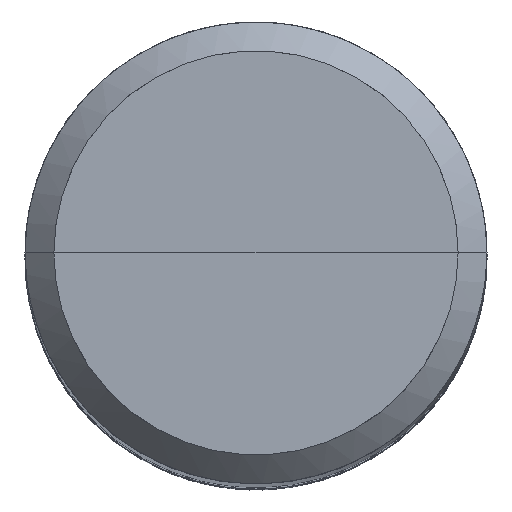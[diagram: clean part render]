
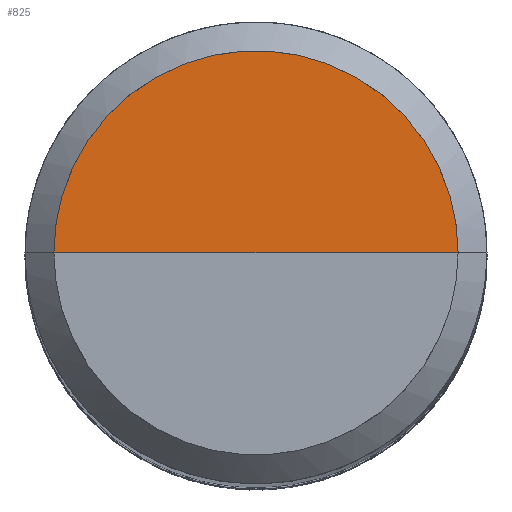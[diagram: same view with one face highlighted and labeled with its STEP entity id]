
A CAD part, top view. The second image highlights one B-rep face of the part: STEP entity #825.
In plain terms, the highlighted free-form (B-spline) face has degree [1, 2] with [2, 5] control points.
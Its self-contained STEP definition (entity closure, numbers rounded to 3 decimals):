
#540=CARTESIAN_POINT('',(7.0,0.0,71.268));
#541=CARTESIAN_POINT('',(7.0,7.0,71.268));
#542=CARTESIAN_POINT('',(0.0,7.0,71.268));
#543=CARTESIAN_POINT('',(-7.0,7.0,71.268));
#544=CARTESIAN_POINT('',(-7.0,0.0,71.268));
#545=CARTESIAN_POINT('',(0.0,0.0,71.268));
#810=(
BOUNDED_SURFACE()
B_SPLINE_SURFACE(1,2,(
(#540,#541,#542,#543,#544),
(#545,#545,#545,#545,#545)
), .UNSPECIFIED.,.F.,.F.,.F.)
B_SPLINE_SURFACE_WITH_KNOTS((2,2),(3,2,3),(
0.0,1.0),(
0.0,0.5,1.0), .UNSPECIFIED.)
GEOMETRIC_REPRESENTATION_ITEM()
RATIONAL_B_SPLINE_SURFACE(((1.0,0.707,1.0,0.707,1.0),
(1.0,0.707,1.0,0.707,1.0)
))
REPRESENTATION_ITEM('')
SURFACE()
);
#811=(
BOUNDED_CURVE()
B_SPLINE_CURVE(2,(#544,#543,#542,#541,#540),.UNSPECIFIED.,.F.,.F.)
B_SPLINE_CURVE_WITH_KNOTS((3,2,3),
(0.0,0.5,1.0),.UNSPECIFIED.)
CURVE()
GEOMETRIC_REPRESENTATION_ITEM()
RATIONAL_B_SPLINE_CURVE((1.0,0.707,1.0,0.707,1.0))
REPRESENTATION_ITEM('')
);
#812=(
BOUNDED_CURVE()
B_SPLINE_CURVE(1,(#540,#545),.UNSPECIFIED.,.F.,.F.)
B_SPLINE_CURVE_WITH_KNOTS((2,2),
(0.0,1.0),.UNSPECIFIED.)
CURVE()
GEOMETRIC_REPRESENTATION_ITEM()
RATIONAL_B_SPLINE_CURVE((1.0,1.0))
REPRESENTATION_ITEM('')
);
#813=(
BOUNDED_CURVE()
B_SPLINE_CURVE(1,(#545,#544),.UNSPECIFIED.,.F.,.F.)
B_SPLINE_CURVE_WITH_KNOTS((2,2),
(0.0,1.0),.UNSPECIFIED.)
CURVE()
GEOMETRIC_REPRESENTATION_ITEM()
RATIONAL_B_SPLINE_CURVE((1.0,1.0))
REPRESENTATION_ITEM('')
);
#814=VERTEX_POINT('',#540);
#815=VERTEX_POINT('',#544);
#816=VERTEX_POINT('',#545);
#817=EDGE_CURVE('',#815,#814,#811,.T.);
#818=EDGE_CURVE('',#814,#816,#812,.T.);
#819=EDGE_CURVE('',#816,#815,#813,.T.);
#820=ORIENTED_EDGE('',*,*,#817,.T.);
#821=ORIENTED_EDGE('',*,*,#818,.T.);
#822=ORIENTED_EDGE('',*,*,#819,.T.);
#823=EDGE_LOOP('',(#820,#821,#822));
#824=FACE_OUTER_BOUND('',#823,.T.);
#825=ADVANCED_FACE('',(#824),#810,.T.);
